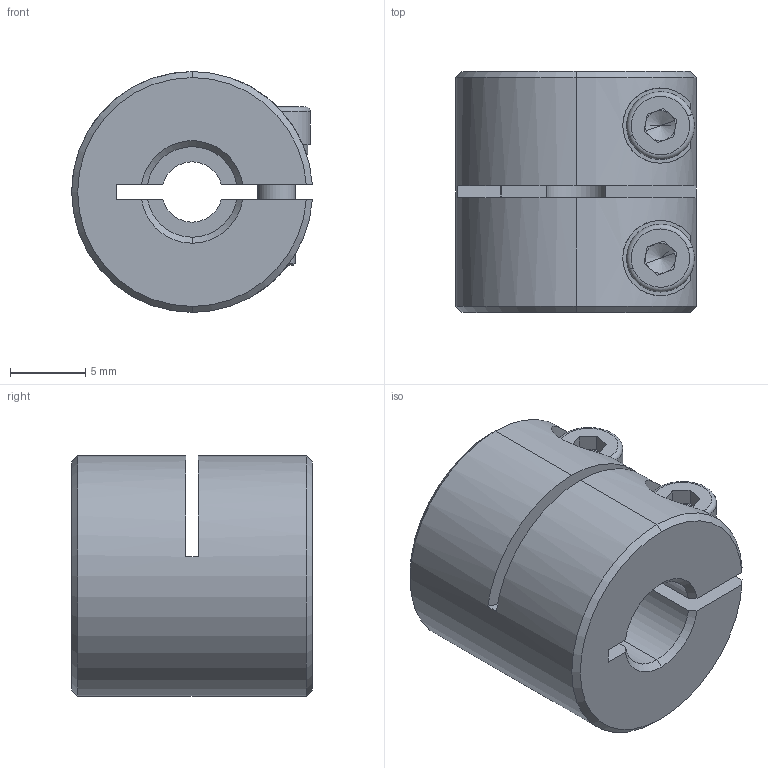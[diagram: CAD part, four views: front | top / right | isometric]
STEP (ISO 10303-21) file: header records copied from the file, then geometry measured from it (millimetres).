
FILE_DESCRIPTION (( 'STEP AP203' ), '1' );
FILE_NAME ('LL-B-D16L16-4-6.STEP', '2021-11-03T02:38:07', ( '' ), ( '' ), 'SwSTEP 2.0', 'SolidWorks 2018', '' );
FILE_SCHEMA (( 'CONFIG_CONTROL_DESIGN' ));
Length unit declared in the file: millimetre
Products named in the file (1): LL-B-D16L16-4-6
Bounding box: 15.98 x 16 x 16 mm (x, y, z)
Volume: 2665.7 mm3; surface area: 2027.6 mm2
Topology: 1 solids, 1 shells, 121 faces, 313 edges, 196 vertices
Faces by surface type: plane 52, cylinder 45, cone 20, torus 4
Entity records: 3948 total; most frequent: CARTESIAN_POINT 879, DIRECTION 653, ORIENTED_EDGE 618, EDGE_CURVE 309, AXIS2_PLACEMENT_3D 254, VERTEX_POINT 196, LINE 145, VECTOR 145
